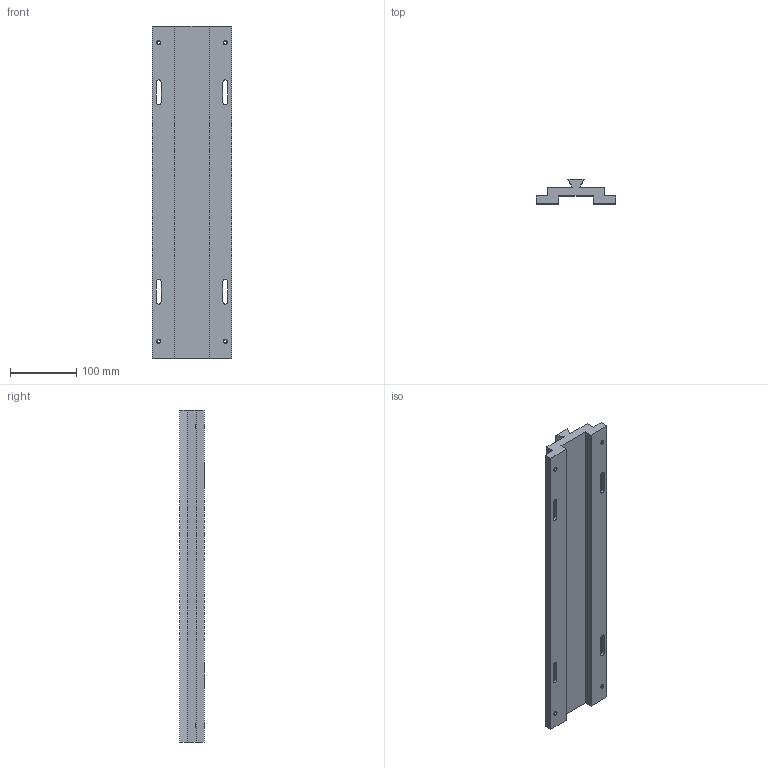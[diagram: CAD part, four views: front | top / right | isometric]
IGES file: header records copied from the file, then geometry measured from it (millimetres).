
Start section:  PTC IGES file: EOB01.igs
Global section: file name: EOB01.igs; native system: Pro/ENGINEER by Parametric Technology Corporation; preprocessor: 2006460; author: Owner; organization: Unknown; date: 20141117.085543; units: millimetre
Bounding box: 120 x 37.62 x 500 mm (x, y, z)
Surface area: 187187.4 mm2 (no closed solid volume)
Topology: 0 solids, 0 shells, 82 faces, 560 edges, 632 vertices
Faces by surface type: bspline 42, revolution 40
